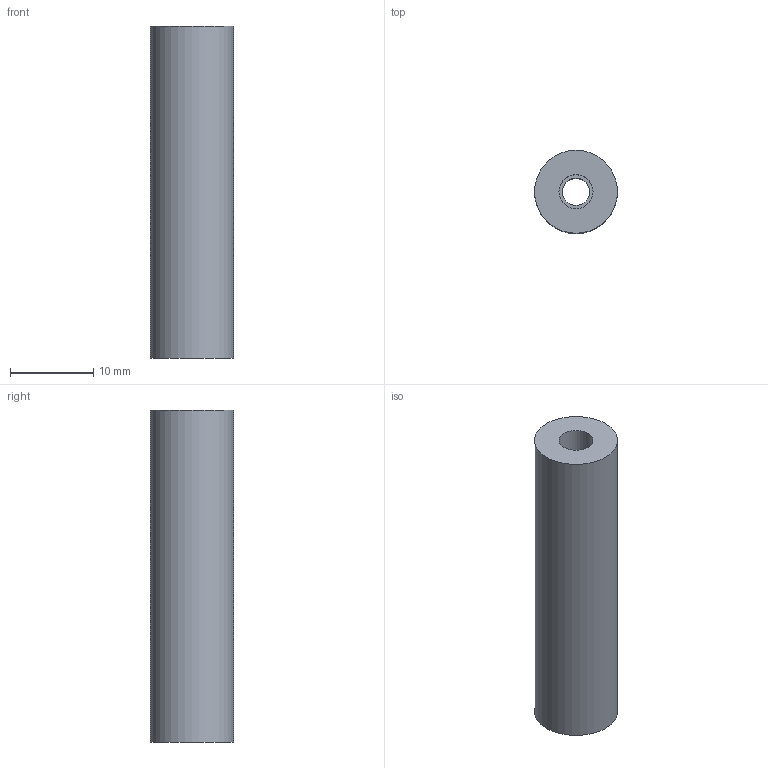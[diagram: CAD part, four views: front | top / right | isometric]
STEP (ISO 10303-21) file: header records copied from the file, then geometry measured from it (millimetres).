
FILE_DESCRIPTION(('Open CASCADE Model'),'2;1');
FILE_NAME('Open CASCADE Shape Model','2026-10-21T12:47:56',('Author'),( 'Open CASCADE'),'Open CASCADE STEP processor 7.9','Open CASCADE 7.9' ,'Unknown');
FILE_SCHEMA(('AUTOMOTIVE_DESIGN { 1 0 10303 214 1 1 1 1 }'));
Length unit declared in the file: millimetre
Products named in the file (1): Open CASCADE STEP translator 7.9 10
Bounding box: 10 x 10 x 40 mm (x, y, z)
Volume: 2743.7 mm3; surface area: 1841.5 mm2
Topology: 1 solids, 1 shells, 8 faces, 12 edges, 8 vertices
Faces by surface type: cylinder 4, plane 4
Full cylindrical faces by diameter (mm): 3.3 x1, 4.1 x2, 10 x1
Entity records: 354 total; most frequent: DIRECTION 62, CARTESIAN_POINT 53, ORIENTED_EDGE 24, PCURVE 24, DEFINITIONAL_REPRESENTATION 24, LINE 20, VECTOR 20, AXIS2_PLACEMENT_3D 17
